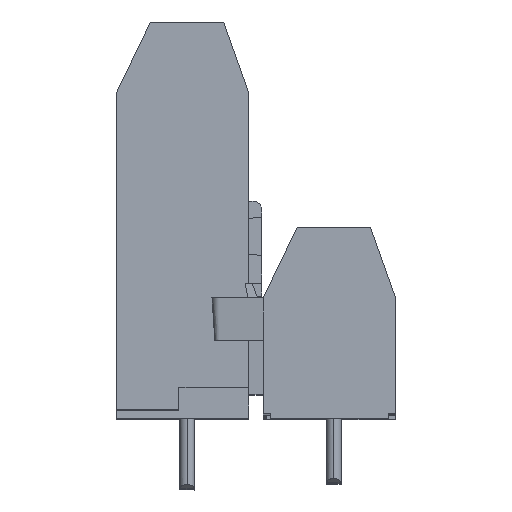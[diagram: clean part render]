
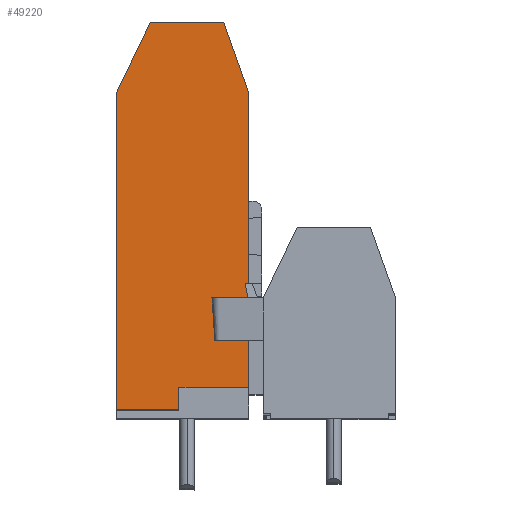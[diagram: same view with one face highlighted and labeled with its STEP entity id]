
A CAD part, top view. The second image highlights one B-rep face of the part: STEP entity #49220.
In plain terms, the highlighted planar face has unit normal (0, 0, 1).
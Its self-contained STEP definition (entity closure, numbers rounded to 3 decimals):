
#30781 = DIRECTION ( 'NONE',  ( -1., 0., 0. ) ) ;
#30782 = DIRECTION ( 'NONE',  ( 0., 0., -1. ) ) ;
#30784 = CARTESIAN_POINT ( 'NONE',  ( 4.2, -13.733, 0. ) ) ;
#30785 = AXIS2_PLACEMENT_3D ( 'NONE', #30784, #30782, #30781 ) ;
#30788 = PLANE ( 'NONE',  #30785 ) ;
#30791 = FACE_OUTER_BOUND ( 'NONE', #49221, .T. ) ;
#30960 = CARTESIAN_POINT ( 'NONE',  ( 4.2, 7.9, 0. ) ) ;
#30961 = CARTESIAN_POINT ( 'NONE',  ( 4.2, 3.567, 0. ) ) ;
#30962 = CARTESIAN_POINT ( 'NONE',  ( 4.2, -0.767, 0. ) ) ;
#30963 = CARTESIAN_POINT ( 'NONE',  ( 4.2, -5.1, 0. ) ) ;
#30965 = B_SPLINE_CURVE_WITH_KNOTS ( 'NONE', 3,
 ( #30963, #30962, #30961, #30960 ),
 .UNSPECIFIED., .F., .F.,
 ( 4, 4 ),
 ( 0., 1. ),
 .UNSPECIFIED. ) ;
#31038 = CARTESIAN_POINT ( 'NONE',  ( -4.8, -13.733, 0. ) ) ;
#31040 = CARTESIAN_POINT ( 'NONE',  ( -4.8, -6.522, 0. ) ) ;
#31041 = CARTESIAN_POINT ( 'NONE',  ( -4.8, 0.689, 0. ) ) ;
#31043 = CARTESIAN_POINT ( 'NONE',  ( -4.8, 7.9, 0. ) ) ;
#31050 = B_SPLINE_CURVE_WITH_KNOTS ( 'NONE', 3,
 ( #31043, #31041, #31040, #31038 ),
 .UNSPECIFIED., .F., .F.,
 ( 4, 4 ),
 ( 0., 1. ),
 .UNSPECIFIED. ) ;
#31082 = CARTESIAN_POINT ( 'NONE',  ( -2.5, 12.7, 0. ) ) ;
#31083 = CARTESIAN_POINT ( 'NONE',  ( -3.267, 11.1, 0. ) ) ;
#31085 = CARTESIAN_POINT ( 'NONE',  ( -4.033, 9.5, 0. ) ) ;
#31087 = CARTESIAN_POINT ( 'NONE',  ( -4.8, 7.9, 0. ) ) ;
#31095 = B_SPLINE_CURVE_WITH_KNOTS ( 'NONE', 3,
 ( #31087, #31085, #31083, #31082 ),
 .UNSPECIFIED., .F., .F.,
 ( 4, 4 ),
 ( 0., 1. ),
 .UNSPECIFIED. ) ;
#31109 = CARTESIAN_POINT ( 'NONE',  ( -4.8, 7.9, 0. ) ) ;
#33490 = CARTESIAN_POINT ( 'NONE',  ( 4.2, -6.1, 0. ) ) ;
#39095 = EDGE_CURVE ( 'NONE', #39104, #50636, #90500, .T. ) ;
#39104 = VERTEX_POINT ( 'NONE', #90475 ) ;
#39108 = VERTEX_POINT ( 'NONE', #90535 ) ;
#39110 = EDGE_CURVE ( 'NONE', #39108, #39104, #90534, .T. ) ;
#39136 = EDGE_CURVE ( 'NONE', #39156, #39137, #90546, .T. ) ;
#39137 = VERTEX_POINT ( 'NONE', #90542 ) ;
#39145 = EDGE_CURVE ( 'NONE', #39137, #39146, #90585, .T. ) ;
#39146 = VERTEX_POINT ( 'NONE', #90581 ) ;
#39154 = EDGE_CURVE ( 'NONE', #39173, #39156, #90579, .T. ) ;
#39156 = VERTEX_POINT ( 'NONE', #90624 ) ;
#39172 = EDGE_CURVE ( 'NONE', #50636, #39173, #90603, .T. ) ;
#39173 = VERTEX_POINT ( 'NONE', #90599 ) ;
#39340 = EDGE_CURVE ( 'NONE', #39366, #39108, #90708, .T. ) ;
#39352 = VERTEX_POINT ( 'NONE', #90689 ) ;
#39355 = EDGE_CURVE ( 'NONE', #39352, #39356, #90731, .T. ) ;
#39356 = VERTEX_POINT ( 'NONE', #90729 ) ;
#39366 = VERTEX_POINT ( 'NONE', #90761 ) ;
#41558 = EDGE_CURVE ( 'NONE', #39356, #41559, #94037, .T. ) ;
#41559 = VERTEX_POINT ( 'NONE', #93998 ) ;
#42855 = EDGE_CURVE ( 'NONE', #42878, #39366, #96275, .T. ) ;
#42878 = VERTEX_POINT ( 'NONE', #96344 ) ;
#49220 = ADVANCED_FACE ( 'NONE', ( #30791 ), #30788, .F. ) ;
#49221 = EDGE_LOOP ( 'NONE', ( #49224, #49260, #49265, #49267, #49270, #49272, #49276, #49279, #49281, #49318, #49320, #49322, #49324 ) ) ;
#49224 = ORIENTED_EDGE ( 'NONE', *, *, #42855, .F. ) ;
#49260 = ORIENTED_EDGE ( 'NONE', *, *, #49263, .T. ) ;
#49263 = EDGE_CURVE ( 'NONE', #42878, #41559, #30965, .T. ) ;
#49265 = ORIENTED_EDGE ( 'NONE', *, *, #41558, .F. ) ;
#49267 = ORIENTED_EDGE ( 'NONE', *, *, #39355, .F. ) ;
#49270 = ORIENTED_EDGE ( 'NONE', *, *, #49298, .F. ) ;
#49272 = ORIENTED_EDGE ( 'NONE', *, *, #49273, .T. ) ;
#49273 = EDGE_CURVE ( 'NONE', #49294, #39146, #31050, .T. ) ;
#49276 = ORIENTED_EDGE ( 'NONE', *, *, #39145, .F. ) ;
#49279 = ORIENTED_EDGE ( 'NONE', *, *, #39136, .F. ) ;
#49281 = ORIENTED_EDGE ( 'NONE', *, *, #39154, .F. ) ;
#49294 = VERTEX_POINT ( 'NONE', #31109 ) ;
#49298 = EDGE_CURVE ( 'NONE', #49294, #39352, #31095, .T. ) ;
#49318 = ORIENTED_EDGE ( 'NONE', *, *, #39172, .F. ) ;
#49320 = ORIENTED_EDGE ( 'NONE', *, *, #39095, .F. ) ;
#49322 = ORIENTED_EDGE ( 'NONE', *, *, #39110, .F. ) ;
#49324 = ORIENTED_EDGE ( 'NONE', *, *, #39340, .F. ) ;
#50636 = VERTEX_POINT ( 'NONE', #33490 ) ;
#90475 = CARTESIAN_POINT ( 'NONE',  ( 4.145, -6.1, 0. ) ) ;
#90497 = DIRECTION ( 'NONE',  ( 1., 0., 0. ) ) ;
#90498 = VECTOR ( 'NONE', #90497, 1000. ) ;
#90499 = CARTESIAN_POINT ( 'NONE',  ( -0.3, -6.1, 0. ) ) ;
#90500 = LINE ( 'NONE', #90499, #90498 ) ;
#90529 = CARTESIAN_POINT ( 'NONE',  ( 4.145, -6.1, 0. ) ) ;
#90530 = CARTESIAN_POINT ( 'NONE',  ( 4.093, -5.806, 0. ) ) ;
#90531 = CARTESIAN_POINT ( 'NONE',  ( 4.041, -5.512, 0. ) ) ;
#90532 = CARTESIAN_POINT ( 'NONE',  ( 3.989, -5.217, 0. ) ) ;
#90534 = B_SPLINE_CURVE_WITH_KNOTS ( 'NONE', 3,
 ( #90532, #90531, #90530, #90529 ),
 .UNSPECIFIED., .F., .F.,
 ( 4, 4 ),
 ( 0., 1. ),
 .UNSPECIFIED. ) ;
#90535 = CARTESIAN_POINT ( 'NONE',  ( 3.989, -5.217, 0. ) ) ;
#90542 = CARTESIAN_POINT ( 'NONE',  ( -0.55, -13.733, 0. ) ) ;
#90543 = DIRECTION ( 'NONE',  ( 0., -1., 0. ) ) ;
#90544 = VECTOR ( 'NONE', #90543, 1000. ) ;
#90545 = CARTESIAN_POINT ( 'NONE',  ( -0.55, -0.516, 0. ) ) ;
#90546 = LINE ( 'NONE', #90545, #90544 ) ;
#90572 = DIRECTION ( 'NONE',  ( -1., 0., 0. ) ) ;
#90573 = VECTOR ( 'NONE', #90572, 1000. ) ;
#90574 = CARTESIAN_POINT ( 'NONE',  ( -0.3, -12.2, 0. ) ) ;
#90579 = LINE ( 'NONE', #90574, #90573 ) ;
#90581 = CARTESIAN_POINT ( 'NONE',  ( -4.8, -13.733, 0. ) ) ;
#90582 = DIRECTION ( 'NONE',  ( -1., 0., 0. ) ) ;
#90583 = VECTOR ( 'NONE', #90582, 1000. ) ;
#90584 = CARTESIAN_POINT ( 'NONE',  ( -0.3, -13.733, 0. ) ) ;
#90585 = LINE ( 'NONE', #90584, #90583 ) ;
#90599 = CARTESIAN_POINT ( 'NONE',  ( 4.2, -12.2, 0. ) ) ;
#90600 = DIRECTION ( 'NONE',  ( 0., -1., 0. ) ) ;
#90601 = VECTOR ( 'NONE', #90600, 1000. ) ;
#90602 = CARTESIAN_POINT ( 'NONE',  ( 4.2, -0.516, 0. ) ) ;
#90603 = LINE ( 'NONE', #90602, #90601 ) ;
#90624 = CARTESIAN_POINT ( 'NONE',  ( -0.55, -12.2, 0. ) ) ;
#90689 = CARTESIAN_POINT ( 'NONE',  ( -2.5, 12.7, 0. ) ) ;
#90700 = CARTESIAN_POINT ( 'NONE',  ( 3.989, -5.217, 0. ) ) ;
#90701 = CARTESIAN_POINT ( 'NONE',  ( 3.984, -5.189, 0. ) ) ;
#90702 = CARTESIAN_POINT ( 'NONE',  ( 3.993, -5.158, 0. ) ) ;
#90703 = CARTESIAN_POINT ( 'NONE',  ( 4.03, -5.113, 0. ) ) ;
#90704 = CARTESIAN_POINT ( 'NONE',  ( 4.059, -5.1, 0. ) ) ;
#90705 = CARTESIAN_POINT ( 'NONE',  ( 4.088, -5.1, 0. ) ) ;
#90708 = B_SPLINE_CURVE_WITH_KNOTS ( 'NONE', 3,
 ( #90705, #90704, #90703, #90702, #90701, #90700 ),
 .UNSPECIFIED., .F., .F.,
 ( 4, 2, 4 ),
 ( 0., 0.5, 1. ),
 .UNSPECIFIED. ) ;
#90725 = CARTESIAN_POINT ( 'NONE',  ( 2.5, 12.7, 0. ) ) ;
#90726 = CARTESIAN_POINT ( 'NONE',  ( 0.833, 12.7, 0. ) ) ;
#90727 = CARTESIAN_POINT ( 'NONE',  ( -0.833, 12.7, 0. ) ) ;
#90728 = CARTESIAN_POINT ( 'NONE',  ( -2.5, 12.7, 0. ) ) ;
#90729 = CARTESIAN_POINT ( 'NONE',  ( 2.5, 12.7, 0. ) ) ;
#90731 = B_SPLINE_CURVE_WITH_KNOTS ( 'NONE', 3,
 ( #90728, #90727, #90726, #90725 ),
 .UNSPECIFIED., .F., .F.,
 ( 4, 4 ),
 ( 0., 1. ),
 .UNSPECIFIED. ) ;
#90761 = CARTESIAN_POINT ( 'NONE',  ( 4.088, -5.1, 0. ) ) ;
#93998 = CARTESIAN_POINT ( 'NONE',  ( 4.2, 7.9, 0. ) ) ;
#94032 = CARTESIAN_POINT ( 'NONE',  ( 4.2, 7.9, 0. ) ) ;
#94033 = CARTESIAN_POINT ( 'NONE',  ( 3.633, 9.5, 0. ) ) ;
#94034 = CARTESIAN_POINT ( 'NONE',  ( 3.067, 11.1, 0. ) ) ;
#94035 = CARTESIAN_POINT ( 'NONE',  ( 2.5, 12.7, 0. ) ) ;
#94037 = B_SPLINE_CURVE_WITH_KNOTS ( 'NONE', 3,
 ( #94035, #94034, #94033, #94032 ),
 .UNSPECIFIED., .F., .F.,
 ( 4, 4 ),
 ( 0., 1. ),
 .UNSPECIFIED. ) ;
#96268 = DIRECTION ( 'NONE',  ( -1., 0., 0. ) ) ;
#96269 = VECTOR ( 'NONE', #96268, 1000. ) ;
#96270 = CARTESIAN_POINT ( 'NONE',  ( -0.3, -5.1, 0. ) ) ;
#96275 = LINE ( 'NONE', #96270, #96269 ) ;
#96344 = CARTESIAN_POINT ( 'NONE',  ( 4.2, -5.1, 0. ) ) ;
